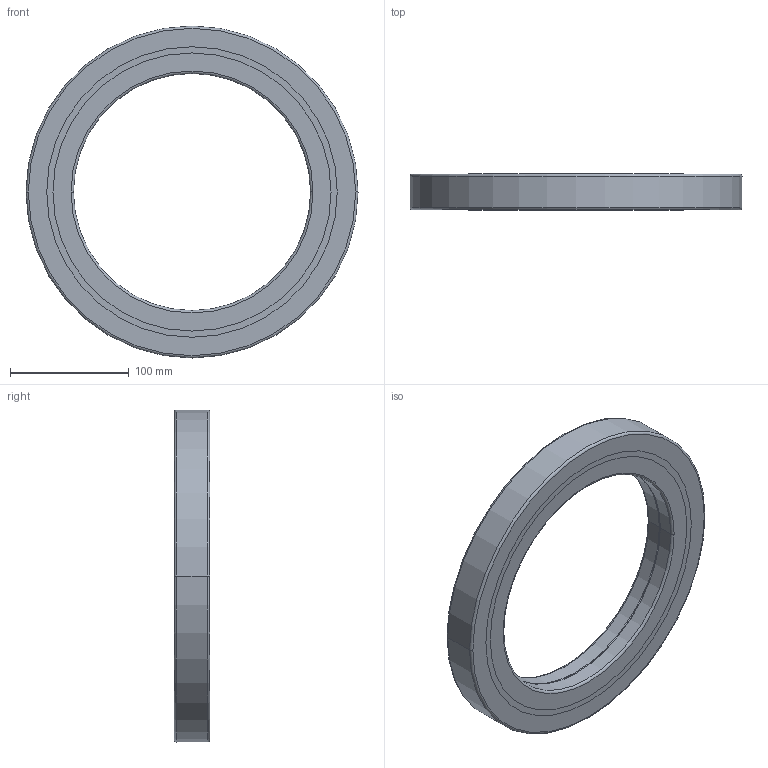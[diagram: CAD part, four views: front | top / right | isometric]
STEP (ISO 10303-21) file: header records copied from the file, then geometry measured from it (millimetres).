
FILE_DESCRIPTION(('starvars output'),'2;1');
FILE_NAME('cv20160920044133000003803.stp','04:41:35 2016/09/20',( 'Thomas Industrial Network Germany GmbH'),( 'Thomas Industrial Network Germany GmbH'),'unknown preprocess','ACIS' ,'unknown authorization');
FILE_SCHEMA(('AUTOMOTIVE_DESIGN_CC2 {UNKNOWN IMPLEMENTATION LEVEL}'));
Length unit declared in the file: millimetre
Products named in the file (1): PRODUCT_ID_1
Bounding box: 280 x 30 x 280 mm (x, y, z)
Volume: 858659.4 mm3; surface area: 200365.5 mm2
Topology: 1 solids, 2 shells, 596 faces, 1460 edges, 1004 vertices
Faces by surface type: cylinder 424, plane 144, cone 20, torus 8
Entity records: 23885 total; most frequent: CARTESIAN_POINT 7088, ORIENTED_EDGE 2920, DIRECTION 1688, EDGE_CURVE 1460, VERTEX_POINT 1004, EDGE_LOOP 868, FACE_BOUND 868, AXIS2_PLACEMENT_3D 620
